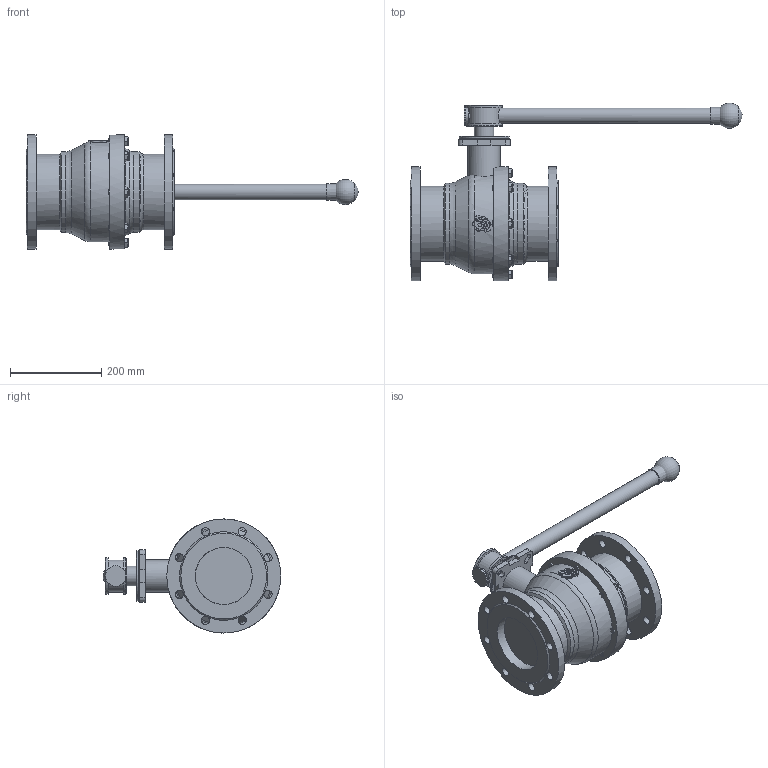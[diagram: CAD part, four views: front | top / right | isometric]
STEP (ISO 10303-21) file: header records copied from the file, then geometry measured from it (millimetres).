
FILE_DESCRIPTION(('STEP AP203'), '1');
FILE_NAME('3D_7528-125-16', '', ('UNSPECIFIED'), ('UNSPECIFIED'), 'C3D Converter', 'C3D Toolkit', '');
FILE_SCHEMA(('CONFIG_CONTROL_DESIGN'));
Length unit declared in the file: millimetre
Assembly tree (9 placements, depth 3):
  (unnamed)
    (unnamed)
      (unnamed)
      (unnamed)  x5
      (unnamed)
      (unnamed)
Bounding box: 727.56 x 389.34 x 250.04 mm (x, y, z)
Volume: 51367.7 mm3; surface area: 583622.7 mm2
Topology: 8 solids, 9 shells, 1073 faces, 3147 edges, 2105 vertices
Faces by surface type: plane 942, cylinder 73, cone 35, torus 23
Full cylindrical faces by diameter (mm): 12 x16, 18 x16, 33.635 x1, 42.955 x1, 47.007 x1, 70.917 x1, 79.832 x2, 110.224 x1, 125 x2, 164.995 x2, 177.152 x2, 250 x2, 250.095 x1
Entity records: 46725 total; most frequent: CARTESIAN_POINT 13678, ORIENTED_EDGE 5794, DIRECTION 4283, EDGE_CURVE 2899, VERTEX_POINT 1983, LINE 1797, VECTOR 1797, AXIS2_PLACEMENT_3D 1243
